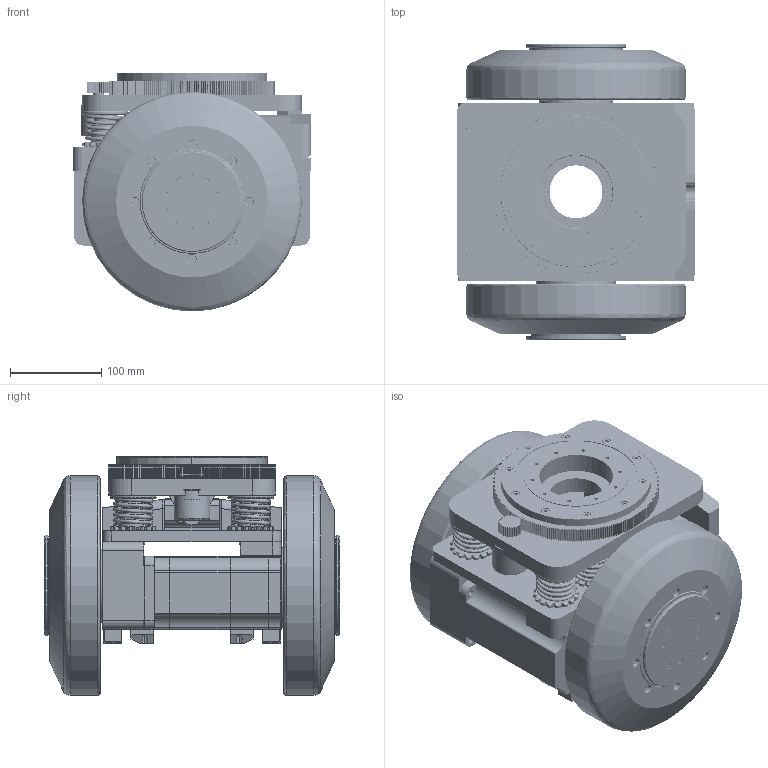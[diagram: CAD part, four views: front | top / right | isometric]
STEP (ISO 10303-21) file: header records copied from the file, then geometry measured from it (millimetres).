
FILE_DESCRIPTION (( 'STEP AP214' ), '1' );
FILE_NAME ('TEC-240P750BS-24-48D.STEP', '2022-06-24T03:25:47', ( 'admin' ), ( 'Microsoft' ), 'SwSTEP 2.0', 'SolidWorks 2012', '' );
FILE_SCHEMA (( 'AUTOMOTIVE_DESIGN' ));
Length unit declared in the file: millimetre
Products named in the file (61): TEC-240P750BS-24-48D.sldasm-Part-60; TEC-240P750BS-24-48D.sldasm-Part-59; TEC-240P750BS-24-48D.sldasm-Part-58; TEC-240P750BS-24-48D.sldasm-Part-57; TEC-240P750BS-24-48D.sldasm-Part-56; TEC-240P750BS-24-48D.sldasm-Part-55; TEC-240P750BS-24-48D.sldasm-Part-54; TEC-240P750BS-24-48D.sldasm-Part-53; TEC-240P750BS-24-48D.sldasm-Part-52; TEC-240P750BS-24-48D.sldasm-Part-51; TEC-240P750BS-24-48D.sldasm-Part-50; TEC-240P750BS-24-48D.sldasm-Part-49; TEC-240P750BS-24-48D.sldasm-Part-48; TEC-240P750BS-24-48D.sldasm-Part-47; TEC-240P750BS-24-48D.sldasm-Part-46; TEC-240P750BS-24-48D.sldasm-Part-45; TEC-240P750BS-24-48D.sldasm-Part-44; TEC-240P750BS-24-48D.sldasm-Part-43; TEC-240P750BS-24-48D.sldasm-Part-42; TEC-240P750BS-24-48D.sldasm-Part-41; TEC-240P750BS-24-48D.sldasm-Part-40; TEC-240P750BS-24-48D.sldasm-Part-39; TEC-240P750BS-24-48D.sldasm-Part-38; TEC-240P750BS-24-48D.sldasm-Part-37; TEC-240P750BS-24-48D.sldasm-Part-36; TEC-240P750BS-24-48D.sldasm-Part-35; TEC-240P750BS-24-48D.sldasm-Part-34; TEC-240P750BS-24-48D.sldasm-Part-33; TEC-240P750BS-24-48D.sldasm-Part-32; TEC-240P750BS-24-48D.sldasm-Part-31; TEC-240P750BS-24-48D.sldasm-Part-30; TEC-240P750BS-24-48D.sldasm-Part-29; TEC-240P750BS-24-48D.sldasm-Part-28; TEC-240P750BS-24-48D.sldasm-Part-27; TEC-240P750BS-24-48D.sldasm-Part-26; TEC-240P750BS-24-48D.sldasm-Part-25; TEC-240P750BS-24-48D.sldasm-Part-24; TEC-240P750BS-24-48D.sldasm-Part-23; TEC-240P750BS-24-48D.sldasm-Part-22; TEC-240P750BS-24-48D.sldasm-Part-21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
Assembly tree (60 placements, depth 2):
  TEC-240P750BS-24-48D
    TEC-240P750BS-24-48D.sldasm-Part-1
    TEC-240P750BS-24-48D.sldasm-Part-2
    TEC-240P750BS-24-48D.sldasm-Part-3
    TEC-240P750BS-24-48D.sldasm-Part-4
    TEC-240P750BS-24-48D.sldasm-Part-5
    TEC-240P750BS-24-48D.sldasm-Part-6
    TEC-240P750BS-24-48D.sldasm-Part-7
    TEC-240P750BS-24-48D.sldasm-Part-8
    TEC-240P750BS-24-48D.sldasm-Part-9
    TEC-240P750BS-24-48D.sldasm-Part-10
    TEC-240P750BS-24-48D.sldasm-Part-11
    TEC-240P750BS-24-48D.sldasm-Part-12
    TEC-240P750BS-24-48D.sldasm-Part-13
    TEC-240P750BS-24-48D.sldasm-Part-14
    TEC-240P750BS-24-48D.sldasm-Part-15
    TEC-240P750BS-24-48D.sldasm-Part-16
    TEC-240P750BS-24-48D.sldasm-Part-17
    TEC-240P750BS-24-48D.sldasm-Part-18
    TEC-240P750BS-24-48D.sldasm-Part-19
    TEC-240P750BS-24-48D.sldasm-Part-20
    TEC-240P750BS-24-48D.sldasm-Part-21
    TEC-240P750BS-24-48D.sldasm-Part-22
    TEC-240P750BS-24-48D.sldasm-Part-23
    TEC-240P750BS-24-48D.sldasm-Part-24
    TEC-240P750BS-24-48D.sldasm-Part-25
    TEC-240P750BS-24-48D.sldasm-Part-26
    TEC-240P750BS-24-48D.sldasm-Part-27
    TEC-240P750BS-24-48D.sldasm-Part-28
    TEC-240P750BS-24-48D.sldasm-Part-29
    TEC-240P750BS-24-48D.sldasm-Part-30
    TEC-240P750BS-24-48D.sldasm-Part-31
    TEC-240P750BS-24-48D.sldasm-Part-32
    TEC-240P750BS-24-48D.sldasm-Part-33
    TEC-240P750BS-24-48D.sldasm-Part-34
    TEC-240P750BS-24-48D.sldasm-Part-35
    TEC-240P750BS-24-48D.sldasm-Part-36
    TEC-240P750BS-24-48D.sldasm-Part-37
    TEC-240P750BS-24-48D.sldasm-Part-38
    TEC-240P750BS-24-48D.sldasm-Part-39
    TEC-240P750BS-24-48D.sldasm-Part-40
    TEC-240P750BS-24-48D.sldasm-Part-41
    TEC-240P750BS-24-48D.sldasm-Part-42
    TEC-240P750BS-24-48D.sldasm-Part-43
    TEC-240P750BS-24-48D.sldasm-Part-44
    TEC-240P750BS-24-48D.sldasm-Part-45
    TEC-240P750BS-24-48D.sldasm-Part-46
    TEC-240P750BS-24-48D.sldasm-Part-47
    TEC-240P750BS-24-48D.sldasm-Part-48
    TEC-240P750BS-24-48D.sldasm-Part-49
    TEC-240P750BS-24-48D.sldasm-Part-50
    TEC-240P750BS-24-48D.sldasm-Part-51
    TEC-240P750BS-24-48D.sldasm-Part-52
    TEC-240P750BS-24-48D.sldasm-Part-53
    TEC-240P750BS-24-48D.sldasm-Part-54
    TEC-240P750BS-24-48D.sldasm-Part-55
    TEC-240P750BS-24-48D.sldasm-Part-56
    TEC-240P750BS-24-48D.sldasm-Part-57
    TEC-240P750BS-24-48D.sldasm-Part-58
    TEC-240P750BS-24-48D.sldasm-Part-59
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Bounding box: 260 x 323 x 261 mm (x, y, z)
Volume: 10075170.8 mm3; surface area: 1108872.6 mm2
Topology: 60 solids, 84 shells, 4128 faces, 10944 edges, 7089 vertices
Faces by surface type: plane 1396, cylinder 1264, bspline 872, cone 596
Entity records: 182556 total; most frequent: CARTESIAN_POINT 81566, ORIENTED_EDGE 21708, DIRECTION 18958, EDGE_CURVE 10854, VERTEX_POINT 7087, AXIS2_PLACEMENT_3D 6984, LINE 4990, VECTOR 4990
